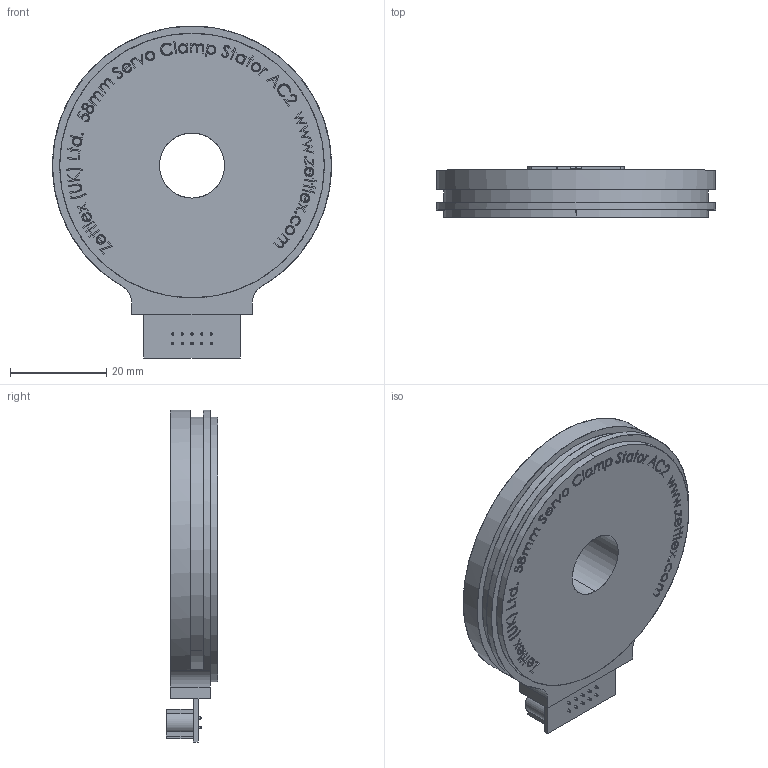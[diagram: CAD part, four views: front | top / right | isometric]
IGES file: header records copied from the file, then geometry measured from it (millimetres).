
Start section: SolidWorks IGES file using analytic representation for surfaces
Global section: file name: C:\Zettlex Data\Mechanical Drawings\1615\58mm Servo Clamp Stator AC2 Rev 1-0.IGS; native system: SolidWorks 2015; preprocessor: SolidWorks 2015; author: Nigel; date: 150908.085824; units: millimetre
Bounding box: 58 x 10.6 x 69 mm (x, y, z)
Surface area: 9266.6 mm2 (no closed solid volume)
Topology: 0 solids, 0 shells, 1010 faces, 12039 edges, 12039 vertices
Faces by surface type: bspline 804, revolution 206
